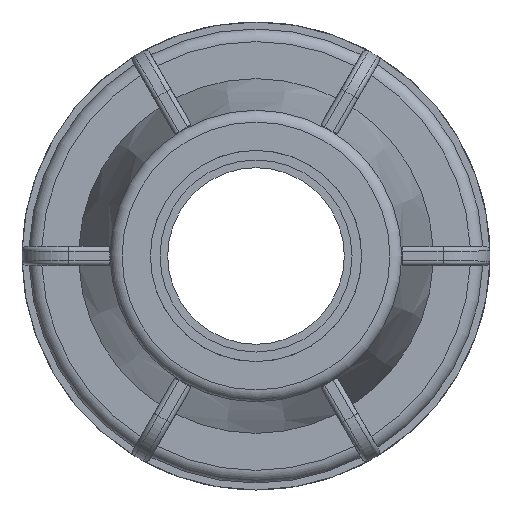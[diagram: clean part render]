
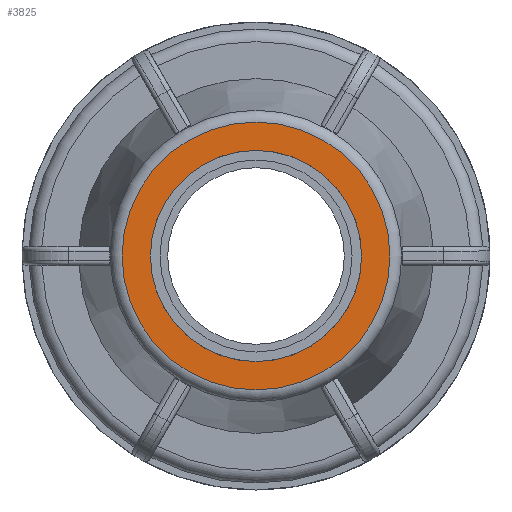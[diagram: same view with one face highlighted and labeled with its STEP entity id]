
A CAD part, left-side view. The second image highlights one B-rep face of the part: STEP entity #3825.
In plain terms, the highlighted planar face has unit normal (-1, 0, 0).
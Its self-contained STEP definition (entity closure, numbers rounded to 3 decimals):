
#204=FACE_BOUND('',#687,.T.);
#269=PLANE('',#4188);
#439=FACE_OUTER_BOUND('',#686,.T.);
#686=EDGE_LOOP('',(#3117));
#687=EDGE_LOOP('',(#3118));
#1388=CIRCLE('',#4185,11.161);
#1390=CIRCLE('',#4189,8.8);
#1707=VERTEX_POINT('',#6826);
#1709=VERTEX_POINT('',#6832);
#2204=EDGE_CURVE('',#1707,#1707,#1388,.T.);
#2206=EDGE_CURVE('',#1709,#1709,#1390,.T.);
#3117=ORIENTED_EDGE('',*,*,#2204,.F.);
#3118=ORIENTED_EDGE('',*,*,#2206,.T.);
#3825=ADVANCED_FACE('',(#439,#204),#269,.F.);
#4185=AXIS2_PLACEMENT_3D('',#6827,#5033,#5034);
#4188=AXIS2_PLACEMENT_3D('',#6831,#5039,#5040);
#4189=AXIS2_PLACEMENT_3D('',#6833,#5041,#5042);
#5033=DIRECTION('center_axis',(1.,0.,0.));
#5034=DIRECTION('ref_axis',(0.,-1.,0.));
#5039=DIRECTION('center_axis',(1.,0.,0.));
#5040=DIRECTION('ref_axis',(0.,0.,-1.));
#5041=DIRECTION('center_axis',(1.,0.,0.));
#5042=DIRECTION('ref_axis',(0.,0.,-1.));
#6826=CARTESIAN_POINT('',(-52.5,11.161,0.));
#6827=CARTESIAN_POINT('Origin',(-52.5,0.,0.));
#6831=CARTESIAN_POINT('Origin',(-52.5,8.8,0.));
#6832=CARTESIAN_POINT('',(-52.5,8.8,0.));
#6833=CARTESIAN_POINT('Origin',(-52.5,0.,0.));
